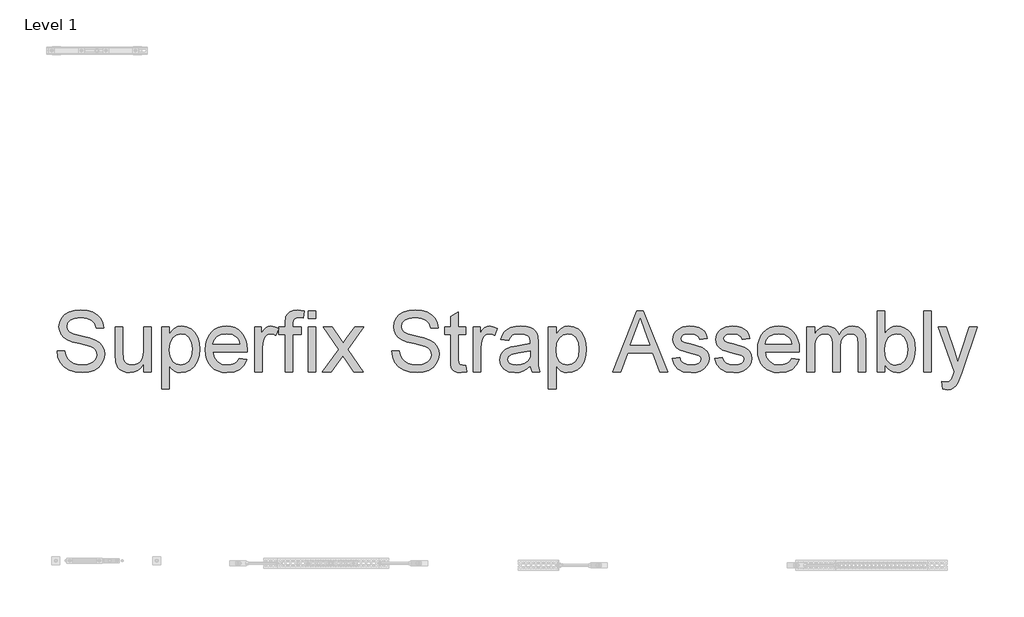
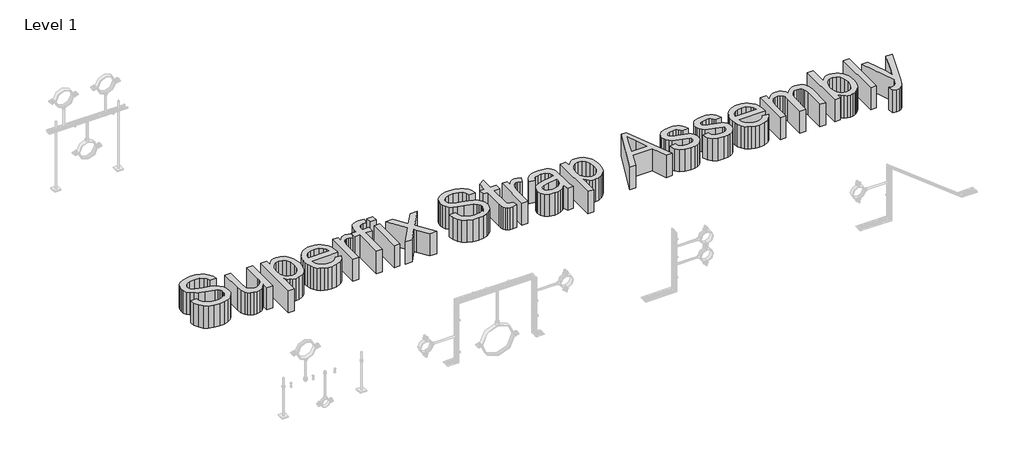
# One storey, part 28 of 32: 1 proxy.
"""IFC4 building model written with IfcOpenShell, lengths in millimetres."""

from ifc_helpers import new_model, si_unit, origin, origin_with_axes, place, context, project, spatial, polyline, outline, extrude, element, save

model = new_model("IFC4")

# Units and contexts
model_context = context("Model", 3, world=origin())
ifc_project = project(units=[si_unit("LENGTHUNIT", "METRE", prefix="MILLI")], contexts=[model_context])

# Site, building, storey
site = spatial("IfcSite", under=ifc_project)
building = spatial("IfcBuilding", under=site)
storey = spatial("IfcBuildingStorey", under=building, Name="Level 1", Elevation=0.0)

# Proxy
placement = place(None, origin())
element("IfcBuildingElementProxy", 1, Name="300mm Arial 2", ObjectType="300mm Arial 2", at=placement, inside=storey, context=model_context, shape_type="SweptSolid", body=[
    extrude(outline(polyline([(-22560.2603171, 21853.0745423), (-22522.5892008, 21853.0745423), (-22518.2665873, 21832.1696479), (-22510.4490949, 21815.3666378), (-22498.2538068, 21802.0309154), (-22480.7978061, 21791.5278845), (-22459.4606504, 21784.7128705), (-22435.6218971, 21782.4411992), (-22414.6342293, 21784.1610475), (-22396.2585236, 21789.3205925), (-22381.3684999, 21797.4875728), (-22370.8378778, 21808.2297271), (-22364.5746868, 21820.5629709), (-22362.4869565, 21833.5032201), (-22364.0504549, 21846.1123755), (-22368.7409504, 21857.0108796), (-22378.2690941, 21866.309097), (-22394.3455372, 21874.1173924), (-22449.1967427, 21888.5015784), (-22485.203193, 21898.020525), (-22508.241803, 21907.0796192), (-22526.9945877, 21919.7531539), (-22540.2843247, 21935.1122272), (-22548.2029847, 21952.8257453), (-22550.842538, 21972.5626143), (-22547.5775853, 21994.626337), (-22537.7827272, 22015.2001375), (-22521.715481, 22032.6377441), (-22499.6333643, 22045.2928848), (-22473.1274665, 22052.9908155), (-22443.7888774, 22055.5567924), (-22412.003873, 22052.8712539), (-22384.1919942, 22044.8146382), (-22361.3465223, 22031.5524922), (-22344.4607387, 22013.250363), (-22333.7737667, 21991.0486846), (-22329.5247297, 21966.0878912), (-22367.195846, 21966.0878912), (-22374.1120275, 21988.5654811), (-22388.5330017, 22004.7890771), (-22411.0657739, 22014.6115264), (-22442.3173494, 22017.8856761), (-22474.3046889, 22014.6483146), (-22496.2488499, 22004.9362299), (-22508.9407787, 21990.6440144), (-22513.1714217, 21973.6662603), (-22510.1731834, 21959.1901038), (-22501.1784686, 21947.5466386), (-22479.9148893, 21937.1355782), (-22439.6685991, 21926.5037885), (-22398.1347218, 21916.4054277), (-22373.0083815, 21907.594654), (-22351.5332701, 21893.9278378), (-22336.5512758, 21877.0604484), (-22327.7496991, 21857.1764265), (-22324.8158402, 21834.4597133), (-22328.1911575, 21811.2371624), (-22338.3171094, 21789.3941689), (-22354.7798287, 21770.595399), (-22377.1654481, 21756.5055185), (-22404.0852131, 21747.7039418), (-22434.1503691, 21744.7700829), (-22471.0581303, 21747.9338681), (-22501.435986, 21757.4252235), (-22525.6334243, 21773.2809375), (-22543.9999329, 21795.5377982), (-22555.7905508, 21822.6507013), (-22560.2603171, 21853.0745423)])), origin_with_axes(), (0.0, 0.0, 1.0), 150.0),
    extrude(outline(polyline([(-22131.7513691, 21749.4789724), (-22131.7513691, 21787.5179707), (-22145.381397, 21768.8157698), (-22161.2555051, 21755.4570549), (-22179.3736934, 21747.4418259), (-22199.7359618, 21744.7700829), (-22218.0840763, 21746.6462811), (-22235.1629979, 21752.2748756), (-22249.4920016, 21760.7361615), (-22259.5903624, 21771.1104337), (-22270.8107633, 21798.8487362), (-22273.0180552, 21833.8711021), (-22273.0180552, 21970.7967807), (-22235.3469389, 21970.7967807), (-22235.3469389, 21851.6030143), (-22233.0660706, 21813.196134), (-22227.5754318, 21800.3846435), (-22218.1668498, 21790.6449677), (-22205.4657239, 21784.4921413), (-22190.0974535, 21782.4411992), (-22173.8462664, 21784.5381266), (-22158.6435429, 21790.8289087), (-22146.1079639, 21800.7341314), (-22137.8582102, 21813.6743806), (-22133.2780794, 21831.3970957), (-22131.7513691, 21855.6497162), (-22131.7513691, 21970.7967807), (-22094.0802528, 21970.7967807), (-22094.0802528, 21749.4789724), (-22131.7513691, 21749.4789724)])), origin_with_axes(), (0.0, 0.0, 1.0), 150.0),
    extrude(outline(polyline([(-22042.2824679, 21664.7189607), (-22042.2824679, 21970.7967807), (-22004.6113516, 21970.7967807), (-22004.6113516, 21933.8614284), (-21992.3240929, 21952.0807842), (-21978.5653063, 21965.0946098), (-21962.5256513, 21972.9029052), (-21943.3957876, 21975.5056703), (-21917.9199594, 21971.8636385), (-21895.6447046, 21960.9375433), (-21877.5081222, 21943.3895721), (-21864.4483114, 21919.8819126), (-21856.5572426, 21892.1252161), (-21853.9268863, 21861.8301338), (-21856.8975334, 21829.612868), (-21865.8094748, 21800.7985108), (-21880.3776018, 21776.8493929), (-21900.3168059, 21759.2278453), (-21923.5393569, 21748.3845235), (-21947.9575243, 21744.7700829), (-21965.2755692, 21747.188907), (-21980.7358101, 21754.4453794), (-21993.9703648, 21765.3990658), (-22004.6113516, 21778.909532), (-22004.6113516, 21664.7189607), (-22042.2824679, 21664.7189607)]), holes=[polyline([(-22004.6113516, 21858.372043), (-22000.5370585, 21824.6004758), (-21988.3141792, 21800.9824518), (-21970.2787644, 21787.0765123), (-21948.7668647, 21782.4411992), (-21926.9054771, 21787.2420592), (-21908.4102098, 21801.6446393), (-21895.8010544, 21826.1271861), (-21891.5980026, 21861.1679462), (-21895.6998869, 21894.7555723), (-21908.0055396, 21918.7046902), (-21926.0133633, 21933.052088), (-21947.2217603, 21937.834554), (-21968.5129308, 21932.7485854), (-21987.2105332, 21917.4906796), (-22000.261147, 21892.5390833), (-22004.6113516, 21858.372043)])]), origin_with_axes(), (0.0, 0.0, 1.0), 150.0),
    extrude(outline(polyline([(-21656.5949841, 21815.403426), (-21619.6596318, 21810.6945364), (-21632.967763, 21782.8642635), (-21654.2037511, 21762.0605367), (-21682.8893497, 21749.0926963), (-21718.5463121, 21744.7700829), (-21741.9206144, 21746.6347848), (-21762.7473338, 21752.2288903), (-21781.0264705, 21761.5523997), (-21796.7580243, 21774.6053127), (-21809.4085664, 21791.024346), (-21818.4446679, 21810.4462161), (-21823.8663288, 21832.8709229), (-21825.6735491, 21858.2984666), (-21823.8479347, 21884.5882337), (-21818.3710915, 21907.7602009), (-21809.2430195, 21927.8143681), (-21796.4637187, 21944.7507355), (-21780.7735516, 21958.2060194), (-21762.9128807, 21967.8169366), (-21742.8817061, 21973.5834868), (-21720.6800277, 21975.5056703), (-21699.1934199, 21973.5880854), (-21679.7623528, 21967.8353307), (-21662.3868263, 21958.2474062), (-21647.0668404, 21944.8243119), (-21634.5611519, 21927.9247327), (-21625.6285172, 21907.9073537), (-21620.2689364, 21884.7721747), (-21618.4824094, 21858.5191958), (-21618.7031386, 21848.3656527), (-21788.0024328, 21848.3656527), (-21781.4817244, 21820.1674978), (-21766.3341833, 21799.4373474), (-21744.4727957, 21786.6902362), (-21717.8105481, 21782.4411992), (-21697.7609794, 21784.4093679), (-21680.8751958, 21790.3138739), (-21667.1531974, 21800.5225993), (-21656.5949841, 21815.403426)]), holes=[polyline([(-21788.0024328, 21886.036769), (-21656.1535257, 21886.036769), (-21661.2486914, 21905.939185), (-21671.2366875, 21920.1762182), (-21693.1992426, 21933.41997), (-21720.8271805, 21937.834554), (-21746.2202352, 21934.3120839), (-21767.2171001, 21923.7446735), (-21781.8128182, 21907.2727572), (-21788.0024328, 21886.036769)])]), origin_with_axes(), (0.0, 0.0, 1.0), 150.0),
    extrude(outline(polyline([(-21580.8112931, 21749.4789724), (-21580.8112931, 21970.7967807), (-21547.8490663, 21970.7967807), (-21547.8490663, 21938.0552832), (-21535.6721723, 21957.0379941), (-21524.4517714, 21968.2216068), (-21513.1945824, 21973.6846544), (-21500.9073238, 21975.5056703), (-21482.145342, 21972.5994025), (-21463.0890547, 21963.8805992), (-21475.6706189, 21930.1090321), (-21488.9143707, 21935.9031735), (-21502.1581225, 21937.834554), (-21513.4061145, 21935.9767499), (-21523.4584901, 21930.4033377), (-21531.5794851, 21921.5373816), (-21537.0333357, 21909.8019459), (-21541.6134665, 21888.7590958), (-21543.1401768, 21865.8032593), (-21543.1401768, 21749.4789724), (-21580.8112931, 21749.4789724)])), origin_with_axes(), (0.0, 0.0, 1.0), 150.0),
    extrude(outline(polyline([(-21430.1268279, 21749.4789724), (-21430.1268279, 21933.1256644), (-21463.0890547, 21933.1256644), (-21463.0890547, 21970.7967807), (-21430.1268279, 21970.7967807), (-21430.1268279, 21993.0904296), (-21426.1537023, 22024.507552), (-21418.5753332, 22037.033934), (-21406.8766858, 22046.9483537), (-21390.505937, 22053.4046827), (-21368.9112639, 22055.5567924), (-21334.5510855, 22051.4365141), (-21340.0693155, 22016.1198425), (-21361.7743532, 22017.8856761), (-21376.0941598, 22016.3221776), (-21385.5027419, 22011.6316822), (-21390.7174692, 22002.6737556), (-21392.4557116, 21988.3079637), (-21392.4557116, 21970.7967807), (-21350.0757057, 21970.7967807), (-21350.0757057, 21933.1256644), (-21392.4557116, 21933.1256644), (-21392.4557116, 21749.4789724), (-21430.1268279, 21749.4789724)])), origin_with_axes(), (0.0, 0.0, 1.0), 150.0),
    extrude(outline(polyline([(-21317.113479, 21749.4789724), (-21317.113479, 21970.7967807), (-21279.4423627, 21970.7967807), (-21279.4423627, 21749.4789724), (-21317.113479, 21749.4789724)])), origin_with_axes(), (0.0, 0.0, 1.0), 150.0),
    extrude(outline(polyline([(-21317.113479, 22013.1767866), (-21317.113479, 22050.8479029), (-21279.4423627, 22050.8479029), (-21279.4423627, 22013.1767866), (-21317.113479, 22013.1767866)])), origin_with_axes(), (0.0, 0.0, 1.0), 150.0),
    extrude(outline(polyline([(-21246.4801359, 21749.4789724), (-21165.9875553, 21860.7264878), (-21241.7712464, 21970.7967807), (-21196.4481845, 21970.7967807), (-21159.8807142, 21917.8217734), (-21142.8109897, 21892.8057978), (-21128.0221334, 21913.2600367), (-21086.3778916, 21970.7967807), (-21041.0548298, 21970.7967807), (-21120.6644935, 21860.7264878), (-21043.9978857, 21749.4789724), (-21089.3209476, 21749.4789724), (-21135.4533497, 21816.3599192), (-21143.9146356, 21828.5736014), (-21201.1570741, 21749.4789724), (-21246.4801359, 21749.4789724)])), origin_with_axes(), (0.0, 0.0, 1.0), 150.0),
    extrude(outline(polyline([(-20902.7311996, 21853.0745423), (-20865.0600833, 21853.0745423), (-20860.7374699, 21832.1696479), (-20852.9199775, 21815.3666378), (-20840.7246893, 21802.0309154), (-20823.2686886, 21791.5278845), (-20801.9315329, 21784.7128705), (-20778.0927796, 21782.4411992), (-20757.1051118, 21784.1610475), (-20738.7294062, 21789.3205925), (-20723.8393824, 21797.4875728), (-20713.3087603, 21808.2297271), (-20707.0455693, 21820.5629709), (-20704.957839, 21833.5032201), (-20706.5213375, 21846.1123755), (-20711.2118329, 21857.0108796), (-20720.7399766, 21866.309097), (-20736.8164198, 21874.1173924), (-20791.6676253, 21888.5015784), (-20827.6740755, 21898.020525), (-20850.7126855, 21907.0796192), (-20869.4654702, 21919.7531539), (-20882.7552073, 21935.1122272), (-20890.6738672, 21952.8257453), (-20893.3134205, 21972.5626143), (-20890.0484678, 21994.626337), (-20880.2536097, 22015.2001375), (-20864.1863636, 22032.6377441), (-20842.1042468, 22045.2928848), (-20815.598349, 22052.9908155), (-20786.2597599, 22055.5567924), (-20754.4747555, 22052.8712539), (-20726.6628767, 22044.8146382), (-20703.8174048, 22031.5524922), (-20686.9316212, 22013.250363), (-20676.2446493, 21991.0486846), (-20671.9956122, 21966.0878912), (-20709.6667285, 21966.0878912), (-20716.58291, 21988.5654811), (-20731.0038843, 22004.7890771), (-20753.5366565, 22014.6115264), (-20784.7882319, 22017.8856761), (-20816.7755714, 22014.6483146), (-20838.7197324, 22004.9362299), (-20851.4116613, 21990.6440144), (-20855.6423042, 21973.6662603), (-20852.644066, 21959.1901038), (-20843.6493512, 21947.5466386), (-20822.3857719, 21937.1355782), (-20782.1394816, 21926.5037885), (-20740.6056043, 21916.4054277), (-20715.4792641, 21907.594654), (-20694.0041526, 21893.9278378), (-20679.0221583, 21877.0604484), (-20670.2205816, 21857.1764265), (-20667.2867227, 21834.4597133), (-20670.66204, 21811.2371624), (-20680.7879919, 21789.3941689), (-20697.2507112, 21770.595399), (-20719.6363306, 21756.5055185), (-20746.5560956, 21747.7039418), (-20776.6212517, 21744.7700829), (-20813.5290128, 21747.9338681), (-20843.9068686, 21757.4252235), (-20868.1043068, 21773.2809375), (-20886.4708154, 21795.5377982), (-20898.2614334, 21822.6507013), (-20902.7311996, 21853.0745423)])), origin_with_axes(), (0.0, 0.0, 1.0), 150.0),
    extrude(outline(polyline([(-20535.4378156, 21780.8960948), (-20530.7289261, 21748.3753264), (-20558.9086869, 21744.7700829), (-20576.990087, 21746.3335814), (-20590.4729621, 21751.0240768), (-20600.0011058, 21758.252958), (-20606.2183115, 21767.4316138), (-20609.639614, 21783.1953573), (-20610.7800482, 21810.1795016), (-20610.7800482, 21933.1256644), (-20639.0333855, 21933.1256644), (-20639.0333855, 21970.7967807), (-20610.7800482, 21970.7967807), (-20610.7800482, 22024.5811284), (-20573.1089319, 22046.7276245), (-20573.1089319, 21970.7967807), (-20535.4378156, 21970.7967807), (-20535.4378156, 21933.1256644), (-20573.1089319, 21933.1256644), (-20573.1089319, 21811.2831476), (-20571.1223691, 21791.8589783), (-20564.6844342, 21784.979585), (-20551.8453526, 21782.4411992), (-20535.4378156, 21780.8960948)])), origin_with_axes(), (0.0, 0.0, 1.0), 150.0),
    extrude(outline(polyline([(-20497.7666993, 21749.4789724), (-20497.7666993, 21970.7967807), (-20464.8044725, 21970.7967807), (-20464.8044725, 21938.0552832), (-20452.6275785, 21957.0379941), (-20441.4071776, 21968.2216068), (-20430.1499886, 21973.6846544), (-20417.86273, 21975.5056703), (-20399.1007482, 21972.5994025), (-20380.0444609, 21963.8805992), (-20392.6260251, 21930.1090321), (-20405.8697769, 21935.9031735), (-20419.1135287, 21937.834554), (-20430.3615207, 21935.9767499), (-20440.4138963, 21930.4033377), (-20448.5348913, 21921.5373816), (-20453.9887419, 21909.8019459), (-20458.5688727, 21888.7590958), (-20460.095583, 21865.8032593), (-20460.095583, 21749.4789724), (-20497.7666993, 21749.4789724)])), origin_with_axes(), (0.0, 0.0, 1.0), 150.0),
    extrude(outline(polyline([(-20215.233327, 21777.7323097), (-20233.2319536, 21762.29966), (-20251.7640091, 21752.2012992), (-20271.2525578, 21746.627887), (-20292.120664, 21744.7700829), (-20323.6021657, 21749.2398491), (-20346.8247167, 21762.6491479), (-20361.1445234, 21783.0114163), (-20365.9177922, 21808.3400917), (-20364.1151705, 21823.9566824), (-20358.7073051, 21838.1385333), (-20350.3655809, 21850.2786391), (-20339.7613824, 21859.7699946), (-20313.3842433, 21872.1308296), (-20280.7898986, 21877.7962123), (-20242.2726537, 21883.7559007), (-20215.4540562, 21890.7456586), (-20215.233327, 21899.1333681), (-20217.8268951, 21915.9455752), (-20225.6075993, 21926.9452469), (-20243.0084177, 21935.1122272), (-20267.2518411, 21937.834554), (-20289.6926428, 21936.0227351), (-20305.3644158, 21930.5872787), (-20316.0513878, 21920.5349031), (-20323.5377864, 21904.8723272), (-20361.2089027, 21909.5812167), (-20354.6698002, 21930.1826085), (-20344.9117303, 21946.3694162), (-20331.024185, 21958.7486454), (-20312.0966563, 21967.9273012), (-20288.9476818, 21973.611078), (-20262.3957988, 21975.5056703), (-20236.9291677, 21973.8318072), (-20216.7416432, 21968.810218), (-20201.5205256, 21961.25944), (-20190.9531153, 21951.9980108), (-20183.9449633, 21940.5476837), (-20179.4016207, 21926.4302121), (-20177.5622107, 21893.4679853), (-20177.5622107, 21846.5998192), (-20175.6492243, 21781.1536122), (-20168.1444316, 21749.4789724), (-20205.8155479, 21749.4789724), (-20215.233327, 21777.7323097)]), holes=[polyline([(-20215.233327, 21853.0745423), (-20276.0074326, 21841.5230476), (-20308.4178364, 21835.4162065), (-20323.096328, 21825.4833926), (-20328.2466759, 21810.988842), (-20325.4415757, 21799.7868353), (-20317.0262751, 21790.6081795), (-20303.184715, 21784.4829443), (-20284.1008365, 21782.4411992), (-20263.8673268, 21784.6944764), (-20245.9882618, 21791.4543081), (-20231.4937112, 21801.4147131), (-20221.4137445, 21813.2697104), (-20216.9439783, 21825.4833926), (-20215.4540562, 21842.4059644), (-20215.233327, 21853.0745423)])]), origin_with_axes(), (0.0, 0.0, 1.0), 150.0),
    extrude(outline(polyline([(-20125.7644258, 21664.7189607), (-20125.7644258, 21970.7967807), (-20088.0933095, 21970.7967807), (-20088.0933095, 21933.8614284), (-20075.8060508, 21952.0807842), (-20062.0472642, 21965.0946098), (-20046.0076092, 21972.9029052), (-20026.8777455, 21975.5056703), (-20001.4019173, 21971.8636385), (-19979.1266625, 21960.9375433), (-19960.9900801, 21943.3895721), (-19947.9302693, 21919.8819126), (-19940.0392005, 21892.1252161), (-19937.4088443, 21861.8301338), (-19940.3794914, 21829.612868), (-19949.2914327, 21800.7985108), (-19963.8595597, 21776.8493929), (-19983.7987638, 21759.2278453), (-20007.0213148, 21748.3845235), (-20031.4394822, 21744.7700829), (-20048.7575271, 21747.188907), (-20064.217768, 21754.4453794), (-20077.4523228, 21765.3990658), (-20088.0933095, 21778.909532), (-20088.0933095, 21664.7189607), (-20125.7644258, 21664.7189607)]), holes=[polyline([(-20088.0933095, 21858.372043), (-20084.0190164, 21824.6004758), (-20071.7961371, 21800.9824518), (-20053.7607223, 21787.0765123), (-20032.2488226, 21782.4411992), (-20010.3874351, 21787.2420592), (-19991.8921677, 21801.6446393), (-19979.2830124, 21826.1271861), (-19975.0799606, 21861.1679462), (-19979.1818448, 21894.7555723), (-19991.4874975, 21918.7046902), (-20009.4953212, 21933.052088), (-20030.7037182, 21937.834554), (-20051.9948887, 21932.7485854), (-20070.6924911, 21917.4906796), (-20083.7431049, 21892.5390833), (-20088.0933095, 21858.372043)])]), origin_with_axes(), (0.0, 0.0, 1.0), 150.0),
    extrude(outline(polyline([(-19807.6936528, 21749.4789724), (-19687.3962403, 22050.8479029), (-19655.3169304, 22050.8479029), (-19535.0195179, 21749.4789724), (-19574.8243498, 21749.4789724), (-19609.331681, 21843.6567632), (-19733.4550661, 21843.6567632), (-19767.8888209, 21749.4789724), (-19807.6936528, 21749.4789724)]), holes=[polyline([(-19719.6227031, 21881.3278795), (-19623.0904676, 21881.3278795), (-19650.2401588, 21955.4193133), (-19671.3565853, 22013.1767866), (-19690.1185671, 21961.8940364), (-19719.6227031, 21881.3278795)])]), origin_with_axes(), (0.0, 0.0, 1.0), 150.0),
    extrude(outline(polyline([(-19513.6087858, 21815.403426), (-19475.9376695, 21820.1123155), (-19469.9963753, 21803.9990841), (-19458.5000629, 21792.1532839), (-19441.3751561, 21784.8692204), (-19418.5480783, 21782.4411992), (-19395.996912, 21784.6668853), (-19380.141198, 21791.3439435), (-19370.7602071, 21801.01924), (-19367.6332101, 21812.2396408), (-19370.7786012, 21821.8413609), (-19380.2147744, 21829.1622126), (-19418.9895367, 21839.9043668), (-19475.7169403, 21858.3352548), (-19490.0735352, 21867.596684), (-19500.4753986, 21879.8563515), (-19506.7937719, 21894.332508), (-19508.8998963, 21910.2434043), (-19507.2076391, 21924.8391225), (-19502.1308676, 21938.3128006), (-19494.1294342, 21950.1310096), (-19483.6631914, 21959.7603209), (-19459.7140735, 21970.9071453), (-19427.3036697, 21975.5056703), (-19402.7843348, 21973.6570632), (-19381.4655731, 21968.1112422), (-19364.3222722, 21959.410833), (-19352.3293191, 21948.0984616), (-19344.383068, 21933.3371966), (-19339.3798729, 21914.2901063), (-19377.0509892, 21909.5812167), (-19381.805864, 21921.436214), (-19391.214446, 21930.3665495), (-19405.3687058, 21935.9675528), (-19424.3606138, 21937.834554), (-19445.9920751, 21936.0503263), (-19460.4130493, 21930.6976433), (-19468.5248473, 21922.9721214), (-19471.22878, 21914.0693771), (-19466.7406196, 21903.1064936), (-19452.6875274, 21894.7923605), (-19420.2403354, 21886.772533), (-19364.9476716, 21869.0406209), (-19350.3427564, 21860.5609409), (-19339.2695083, 21848.9542639), (-19332.2889474, 21834.1838018), (-19329.9620938, 21816.2127664), (-19332.6936176, 21797.6347256), (-19340.8881891, 21780.1603308), (-19354.2331085, 21765.1599425), (-19372.4156761, 21754.003921), (-19394.3782312, 21747.0785424), (-19419.0631131, 21744.7700829), (-19457.0469291, 21749.221455), (-19484.7668374, 21762.5755715), (-19503.2713017, 21784.6852794), (-19513.6087858, 21815.403426)])), origin_with_axes(), (0.0, 0.0, 1.0), 150.0),
    extrude(outline(polyline([(-19301.7087566, 21815.403426), (-19264.0376403, 21820.1123155), (-19258.0963461, 21803.9990841), (-19246.6000337, 21792.1532839), (-19229.4751268, 21784.8692204), (-19206.648049, 21782.4411992), (-19184.0968827, 21784.6668853), (-19168.2411687, 21791.3439435), (-19158.8601779, 21801.01924), (-19155.7331809, 21812.2396408), (-19158.878572, 21821.8413609), (-19168.3147451, 21829.1622126), (-19207.0895074, 21839.9043668), (-19263.8169111, 21858.3352548), (-19278.1735059, 21867.596684), (-19288.5753694, 21879.8563515), (-19294.8937426, 21894.332508), (-19296.9998671, 21910.2434043), (-19295.3076099, 21924.8391225), (-19290.2308383, 21938.3128006), (-19282.2294049, 21950.1310096), (-19271.7631622, 21959.7603209), (-19247.8140443, 21970.9071453), (-19215.4036405, 21975.5056703), (-19190.8843055, 21973.6570632), (-19169.5655439, 21968.1112422), (-19152.4222429, 21959.410833), (-19140.4292899, 21948.0984616), (-19132.4830388, 21933.3371966), (-19127.4798437, 21914.2901063), (-19165.15096, 21909.5812167), (-19169.9058348, 21921.436214), (-19179.3144168, 21930.3665495), (-19193.4686766, 21935.9675528), (-19212.4605846, 21937.834554), (-19234.0920459, 21936.0503263), (-19248.5130201, 21930.6976433), (-19256.6248181, 21922.9721214), (-19259.3287507, 21914.0693771), (-19254.8405904, 21903.1064936), (-19240.7874982, 21894.7923605), (-19208.3403062, 21886.772533), (-19153.0476423, 21869.0406209), (-19138.4427271, 21860.5609409), (-19127.3694791, 21848.9542639), (-19120.3889182, 21834.1838018), (-19118.0620646, 21816.2127664), (-19120.7935884, 21797.6347256), (-19128.9881599, 21780.1603308), (-19142.3330792, 21765.1599425), (-19160.5156468, 21754.003921), (-19182.478202, 21747.0785424), (-19207.1630838, 21744.7700829), (-19245.1468998, 21749.221455), (-19272.8668082, 21762.5755715), (-19291.3712725, 21784.6852794), (-19301.7087566, 21815.403426)])), origin_with_axes(), (0.0, 0.0, 1.0), 150.0),
    extrude(outline(polyline([(-18920.7301624, 21815.403426), (-18883.7948101, 21810.6945364), (-18897.1029412, 21782.8642635), (-18918.3389294, 21762.0605367), (-18947.024528, 21749.0926963), (-18982.6814904, 21744.7700829), (-19006.0557926, 21746.6347848), (-19026.8825121, 21752.2288903), (-19045.1616487, 21761.5523997), (-19060.8932025, 21774.6053127), (-19073.5437447, 21791.024346), (-19082.5798462, 21810.4462161), (-19088.0015071, 21832.8709229), (-19089.8087274, 21858.2984666), (-19087.983113, 21884.5882337), (-19082.5062698, 21907.7602009), (-19073.3781978, 21927.8143681), (-19060.598897, 21944.7507355), (-19044.9087299, 21958.2060194), (-19027.048059, 21967.8169366), (-19007.0168844, 21973.5834868), (-18984.8152059, 21975.5056703), (-18963.3285982, 21973.5880854), (-18943.897531, 21967.8353307), (-18926.5220045, 21958.2474062), (-18911.2020187, 21944.8243119), (-18898.6963301, 21927.9247327), (-18889.7636954, 21907.9073537), (-18884.4041146, 21884.7721747), (-18882.6175877, 21858.5191958), (-18882.8383169, 21848.3656527), (-19052.1376111, 21848.3656527), (-19045.6169027, 21820.1674978), (-19030.4693615, 21799.4373474), (-19008.607974, 21786.6902362), (-18981.9457264, 21782.4411992), (-18961.8961576, 21784.4093679), (-18945.0103741, 21790.3138739), (-18931.2883756, 21800.5225993), (-18920.7301624, 21815.403426)]), holes=[polyline([(-19052.1376111, 21886.036769), (-18920.288704, 21886.036769), (-18925.3838696, 21905.939185), (-18935.3718658, 21920.1762182), (-18957.3344209, 21933.41997), (-18984.9623587, 21937.834554), (-19010.3554135, 21934.3120839), (-19031.3522783, 21923.7446735), (-19045.9479965, 21907.2727572), (-19052.1376111, 21886.036769)])]), origin_with_axes(), (0.0, 0.0, 1.0), 150.0),
    extrude(outline(polyline([(-18844.9464714, 21749.4789724), (-18844.9464714, 21970.7967807), (-18807.2753551, 21970.7967807), (-18807.2753551, 21934.3764632), (-18795.9445896, 21951.1058969), (-18781.3764626, 21964.211693), (-18764.0676147, 21972.682176), (-18744.5146867, 21975.5056703), (-18723.5638071, 21972.6269937), (-18706.769994, 21963.9909638), (-18694.225218, 21950.1677978), (-18686.0214495, 21931.7277128), (-18672.290254, 21950.8805692), (-18656.627678, 21964.5611809), (-18639.0337216, 21972.7695479), (-18619.5083847, 21975.5056703), (-18591.1906682, 21970.9531306), (-18570.2489856, 21957.2955115), (-18557.3087364, 21934.1649311), (-18552.99532, 21901.1935072), (-18552.99532, 21749.4789724), (-18590.6664363, 21749.4789724), (-18590.6664363, 21885.0066995), (-18594.1613153, 21916.46061), (-18599.0725399, 21925.1334281), (-18606.8164559, 21931.948442), (-18616.7768609, 21936.363026), (-18628.3375526, 21937.834554), (-18648.7458063, 21934.0637635), (-18665.3832695, 21922.7513922), (-18676.4473205, 21903.1248877), (-18680.1353375, 21874.411698), (-18680.1353375, 21749.4789724), (-18717.8064538, 21749.4789724), (-18717.8064538, 21889.2005542), (-18719.9861547, 21910.5009217), (-18726.5252571, 21925.6944481), (-18738.0307665, 21934.7995275), (-18755.1096882, 21937.834554), (-18769.6226329, 21935.811203), (-18782.9951434, 21929.7411501), (-18794.0316032, 21919.771548), (-18801.5363959, 21906.0495496), (-18805.8406153, 21887.0116563), (-18807.2753551, 21861.0943698), (-18807.2753551, 21749.4789724), (-18844.9464714, 21749.4789724)])), origin_with_axes(), (0.0, 0.0, 1.0), 150.0),
    extrude(outline(polyline([(-18458.8175292, 21749.4789724), (-18496.4886455, 21749.4789724), (-18496.4886455, 22050.8479029), (-18458.8175292, 22050.8479029), (-18458.8175292, 21939.0853527), (-18446.4291031, 21955.0192417), (-18432.4403902, 21966.4005909), (-18416.8513906, 21973.2294004), (-18399.6621044, 21975.5056703), (-18380.2563292, 21973.4547281), (-18361.9174117, 21967.3019018), (-18345.6938157, 21957.4334673), (-18332.6340049, 21944.2357007), (-18322.3976884, 21927.8373607), (-18314.6445753, 21908.3672061), (-18309.7609418, 21886.6345773), (-18308.133064, 21863.4488145), (-18309.8184234, 21836.6945964), (-18314.8745016, 21813.1593458), (-18323.3012985, 21792.8430626), (-18335.0988143, 21775.7457469), (-18349.2599718, 21762.1938939), (-18364.7776942, 21752.5139989), (-18381.6519815, 21746.7060619), (-18399.8828336, 21744.7700829), (-18417.6377384, 21747.2670819), (-18433.3784893, 21754.7580791), (-18447.1050862, 21767.2430743), (-18458.8175292, 21784.7220676), (-18458.8175292, 21749.4789724)]), holes=[polyline([(-18458.8175292, 21861.682981), (-18456.2423553, 21830.2658586), (-18448.5168334, 21809.0022792), (-18439.3887614, 21797.3818067), (-18428.7799643, 21789.0814692), (-18416.6904423, 21784.1012667), (-18403.1201952, 21782.4411992), (-18381.3783693, 21787.3340297), (-18362.8003285, 21802.0125213), (-18350.0532174, 21826.3847035), (-18345.8041803, 21860.3586058), (-18349.8784734, 21894.8291487), (-18362.1013527, 21918.9254194), (-18380.0999793, 21933.1072703), (-18401.5015144, 21937.834554), (-18423.2433403, 21932.9417234), (-18441.8213811, 21918.2632318), (-18454.5684922, 21894.332508), (-18458.8175292, 21861.682981)])]), origin_with_axes(), (0.0, 0.0, 1.0), 150.0),
    extrude(outline(polyline([(-18265.7530582, 21749.4789724), (-18265.7530582, 22050.8479029), (-18228.0819419, 22050.8479029), (-18228.0819419, 21749.4789724), (-18265.7530582, 21749.4789724)])), origin_with_axes(), (0.0, 0.0, 1.0), 150.0),
    extrude(outline(polyline([(-18171.5752674, 21664.7189607), (-18176.2841569, 21700.9921255), (-18157.1542932, 21697.6811875), (-18139.2752282, 21701.8382541), (-18128.3123448, 21713.4265369), (-18118.0116489, 21741.1648393), (-18115.0685929, 21750.2883128), (-18195.1197151, 21970.7967807), (-18155.3884596, 21970.7967807), (-18112.9348774, 21847.9241943), (-18098.1460212, 21798.7751598), (-18083.357165, 21842.1852352), (-18039.7263603, 21970.7967807), (-18000.2894105, 21970.7967807), (-18077.3239002, 21744.1814717), (-18097.3366808, 21695.0324371), (-18107.5821943, 21679.34227), (-18119.1888713, 21668.4713571), (-18132.6717464, 21662.1253927), (-18148.5458545, 21660.0100712), (-18171.5752674, 21664.7189607)])), origin_with_axes(), (0.0, 0.0, 1.0), 150.0),
])

save(model, "model.ifc")
